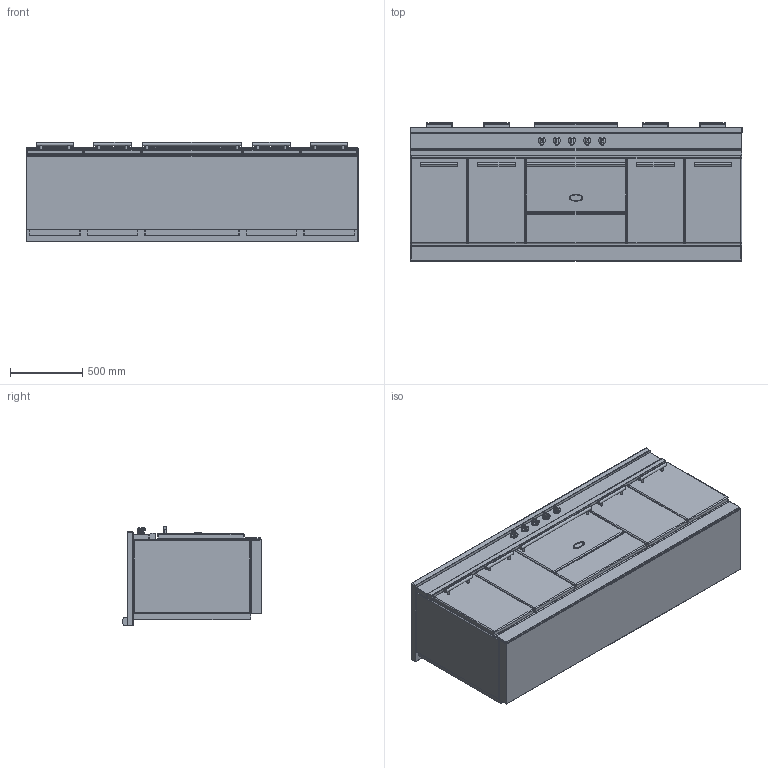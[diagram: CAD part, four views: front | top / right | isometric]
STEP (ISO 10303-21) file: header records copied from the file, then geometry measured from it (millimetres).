
FILE_DESCRIPTION((''),'2;1');
FILE_NAME('LMVTR2341_ASM','2022-04-13T13:19:10',('stagiaire'),(''),'CREO PARAMETRIC BY PTC INC, 2021424','CREO PARAMETRIC BY PTC INC, 2021424','');
FILE_SCHEMA(('AP203_CONFIGURATION_CONTROLLED_3D_DESIGN_OF_MECHANICAL_PARTS_AND_ASSEMBLIES_MIM_LF { 1 0 10303 403 2 1 2 }'));
Products named in the file (13): BASE_EXPORT_FONTENAY_LMVTR2341; 65049009; 65650001; 65064012; 19150009; 88064012_ASM; BASE_EXPORT_FONTENAY_LMVTR2341_ASM; TABLE_2300_INDUCTION_ET_VTR; 65052002; CHEMINEE_2020_LG582_EXPORT_STEP; CHEMINEE_2020_LG182_EXPORT_STEP; TABLE_2300_VTR_ASM; LMVTR2341_ASM
Assembly tree (19 placements, depth 4):
  LMVTR2341_ASM
    BASE_EXPORT_FONTENAY_LMVTR2341_ASM
      BASE_EXPORT_FONTENAY_LMVTR2341
      65049009
      65650001
      88064012_ASM  x5
        65064012
        19150009
    TABLE_2300_VTR_ASM
      TABLE_2300_INDUCTION_ET_VTR
      65052002
      CHEMINEE_2020_LG582_EXPORT_STEP
      CHEMINEE_2020_LG182_EXPORT_STEP  x4
Bounding box: 2305 x 963 x 688.5 mm (x, y, z)
Volume: 1248132624.1 mm3; surface area: 17147798.5 mm2
Topology: 24 solids, 24 shells, 3160 faces, 9291 edges, 5939 vertices
Faces by surface type: cylinder 1332, plane 1280, sphere 224, bspline 211, torus 85, cone 26, extrusion 2
Entity records: 78038 total; most frequent: CARTESIAN_POINT 20542, DIRECTION 10546, ORIENTED_EDGE 10426, EDGE_CURVE 5213, VECTOR 3674, LINE 3672, AXIS2_PLACEMENT_3D 3418, VERTEX_POINT 3309
